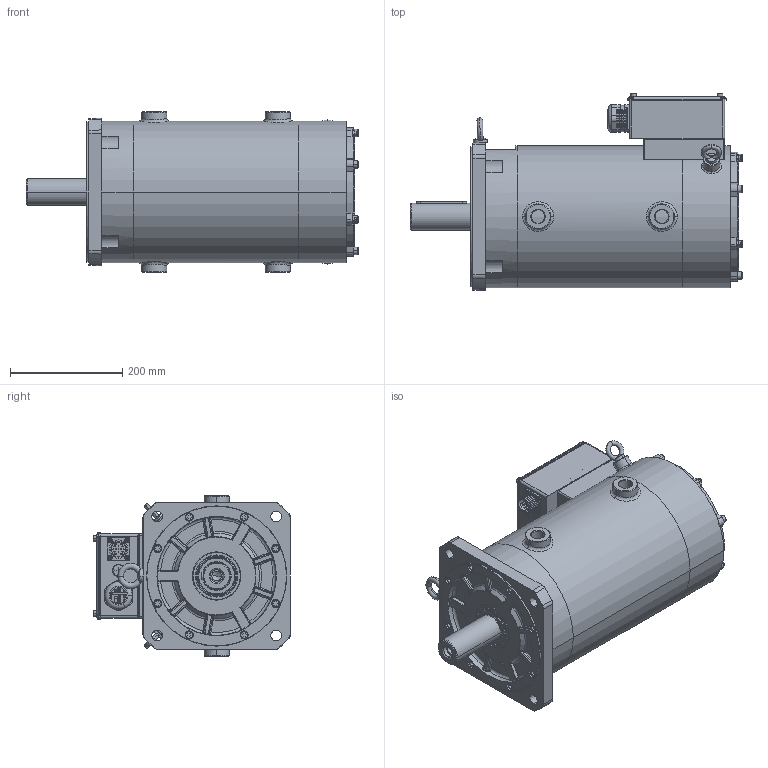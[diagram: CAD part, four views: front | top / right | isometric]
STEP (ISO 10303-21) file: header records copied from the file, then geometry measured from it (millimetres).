
FILE_DESCRIPTION((''),'2;1');
FILE_NAME('MOTOR-240____SW0001','2026-02-12T16:28:17',('01002423'),(''),'CREO PARAMETRIC BY PTC INC, 2019080','CREO PARAMETRIC BY PTC INC, 2019080','');
FILE_SCHEMA(('CONFIG_CONTROL_DESIGN'));
Length unit declared in the file: millimetre
Products named in the file (1): MOTOR-240____SW0001
Bounding box: 592 x 350.99 x 287 mm (x, y, z)
Surface area: 1986472.5 mm2 (no closed solid volume)
Topology: 0 solids, 106 shells, 2094 faces, 6732 edges, 4739 vertices
Faces by surface type: plane 809, cylinder 600, bspline 344, cone 167, torus 150, sphere 24
Entity records: 107016 total; most frequent: CARTESIAN_POINT 49688, DIRECTION 11550, ORIENTED_EDGE 11329, EDGE_CURVE 6696, VERTEX_POINT 4739, AXIS2_PLACEMENT_3D 4039, VECTOR 3472, LINE 3472
